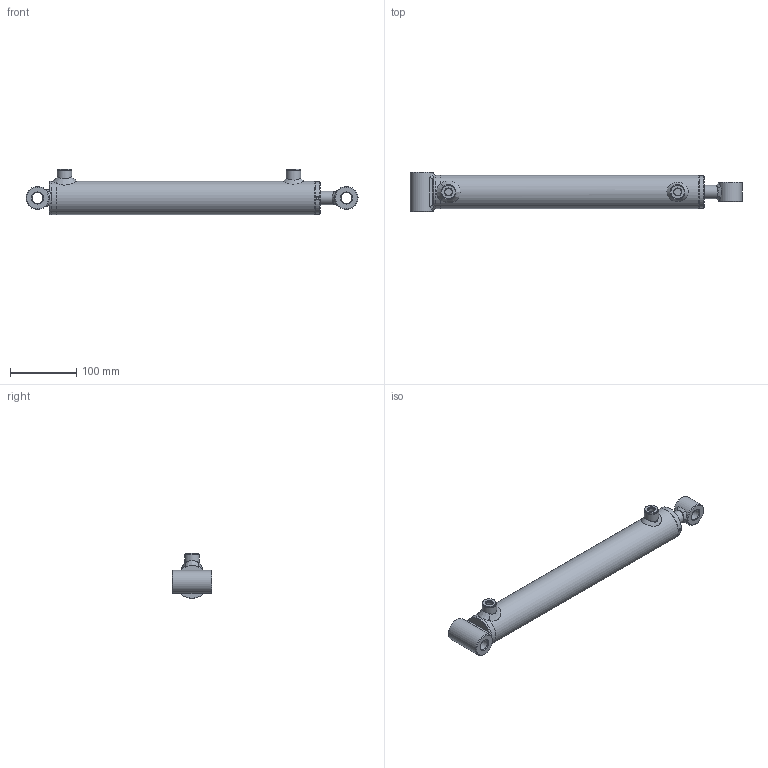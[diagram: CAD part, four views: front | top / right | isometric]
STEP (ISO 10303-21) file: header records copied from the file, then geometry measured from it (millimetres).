
FILE_DESCRIPTION( ( 'Unknown' ), '1' );
FILE_NAME( 'E:/LIBRERIA_3d/CILINDRI/HM2/HM21200300.stp', 'Unknown', ( 'Unknown' ), ( 'Unknown' ), 'PSStep 17.0.49', 'Unknown', ' ' );
FILE_SCHEMA( ( 'AUTOMOTIVE_DESIGN { 1 0 10303 214 1 1 1 1 }' ) );
Length unit declared in the file: millimetre
Products named in the file (26): STL1500300-oa6; Saldatura d'angolo 1-oa4; FTM1500300-oa5; CBSC220400; CT00040015; CG05004020; HM01200300; Saldatura con preparazione 1-oa2; Saldatura d'angolo 1-oa3; CF00040050; CDA0001415; CBS0400000; APG0400000; SBL2010300; Assem1; CB16035030; CB16035060; Saldatura d'angolo 1-oa0; Saldatura d'angolo 2-oa1
Assembly tree (18 placements, depth 4):
  Saldatura d'angolo 1-oa4
  Saldatura d'angolo 1-oa4
  Saldatura d'angolo 1-oa3
  Saldatura d'angolo 1-oa3
  Assem1
    CB16035030
    CB16035060
    HM01200300
      Saldatura con preparazione 1-oa2
      Saldatura con preparazione 1-oa2
      CF00040050
      CDA0001415
      CBS0400000
      APG0400000  x2
      SBL2010300
      CT00040015
        CT00040015
      CG05004020
        CG05004020
      STL1500300-oa6
        FTM1500300-oa5
        CBSC220400
Bounding box: 500 x 60 x 68 mm (x, y, z)
Volume: 574784.8 mm3; surface area: 209283.3 mm2
Topology: 22 solids, 22 shells, 294 faces, 587 edges, 342 vertices
Faces by surface type: bspline 86, plane 72, cylinder 62, cone 42, torus 32
Full cylindrical faces by diameter (mm): 4 x4, 4.25 x1, 7 x2, 11.445 x2, 12 x2, 13.1 x2, 14 x2, 15 x3, 16.2 x2, 19.5 x1, 20 x6, 22 x6, 23 x1, 28 x1, 28.6 x1, 30 x1, 35 x3, 35.4 x2, 38.5 x2, 39.9 x1, 40 x1, 40.3 x1, 40.5 x1, 40.6 x1, 41 x1, 42 x3, 42.5 x1, 44 x1, 49 x1, 50 x4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
Entity records: 17102 total; most frequent: CARTESIAN_POINT 9870, DIRECTION 842, ORIENTED_EDGE 804, EDGE_LOOP 462, AXIS2_PLACEMENT_3D 403, EDGE_CURVE 402, FACE_OUTER_BOUND 378, VERTEX_POINT 297
